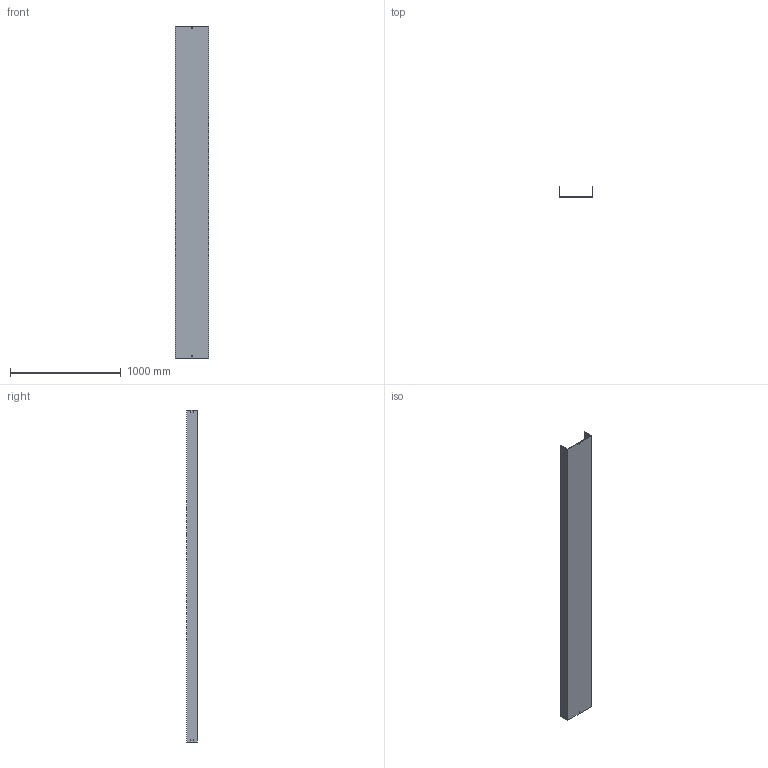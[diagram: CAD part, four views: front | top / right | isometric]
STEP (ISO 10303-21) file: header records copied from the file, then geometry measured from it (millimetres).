
FILE_DESCRIPTION (( 'STEP AP214' ), '1' );
FILE_NAME ('03B3I300.step', '2025-02-21T10:27:29', ( '' ), ( '' ), 'SwSTEP 2.0', 'SolidWorks 2023', '' );
FILE_SCHEMA (( 'AUTOMOTIVE_DESIGN' ));
Length unit declared in the file: millimetre
Products named in the file (1): 03B3I300
Bounding box: 304 x 92.5 x 3000 mm (x, y, z)
Volume: 5058630.5 mm3; surface area: 2916189 mm2
Topology: 1 solids, 1 shells, 50 faces, 144 edges, 96 vertices
Faces by surface type: plane 50
Entity records: 1671 total; most frequent: CARTESIAN_POINT 291, ORIENTED_EDGE 288, DIRECTION 246, EDGE_CURVE 144, LINE 144, VECTOR 144, VERTEX_POINT 96, EDGE_LOOP 70
